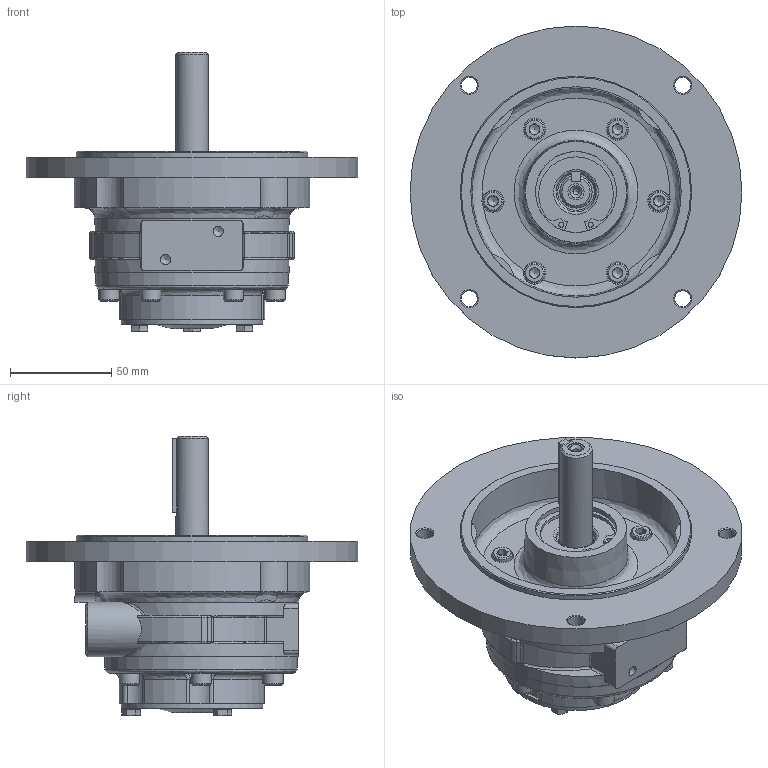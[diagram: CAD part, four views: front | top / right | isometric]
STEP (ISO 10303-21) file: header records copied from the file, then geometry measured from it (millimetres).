
FILE_DESCRIPTION (( 'STEP AP214' ), '1' );
FILE_NAME ('VA2C Defeature.STEP', '2022-05-24T14:16:18', ( '' ), ( '' ), 'SwSTEP 2.0', 'SolidWorks 2020', '' );
FILE_SCHEMA (( 'AUTOMOTIVE_DESIGN' ));
Length unit declared in the file: millimetre
Products named in the file (1): VA2C Defeature
Bounding box: 164 x 164 x 138.2 mm (x, y, z)
Volume: 643420.4 mm3; surface area: 94682.8 mm2
Topology: 1 solids, 2 shells, 546 faces, 1324 edges, 792 vertices
Faces by surface type: plane 285, cylinder 125, cone 59, bspline 49, torus 20, sphere 8
Full cylindrical faces by diameter (mm): 2.5 x2, 3 x1, 5 x2, 7.938 x4, 8 x4, 10 x12, 11 x6, 14.95 x2, 15.875 x1, 18 x1, 19.8 x1, 21.3 x1, 23.073 x1, 25 x1, 27 x2, 40 x1, 70 x1, 95 x2, 114.3 x1, 164 x1
Entity records: 21349 total; most frequent: CARTESIAN_POINT 7395, DIRECTION 2391, ORIENTED_EDGE 2306, EDGE_CURVE 1153, AXIS2_PLACEMENT_3D 949, VERTEX_POINT 736, EDGE_LOOP 681, FACE_OUTER_BOUND 601
